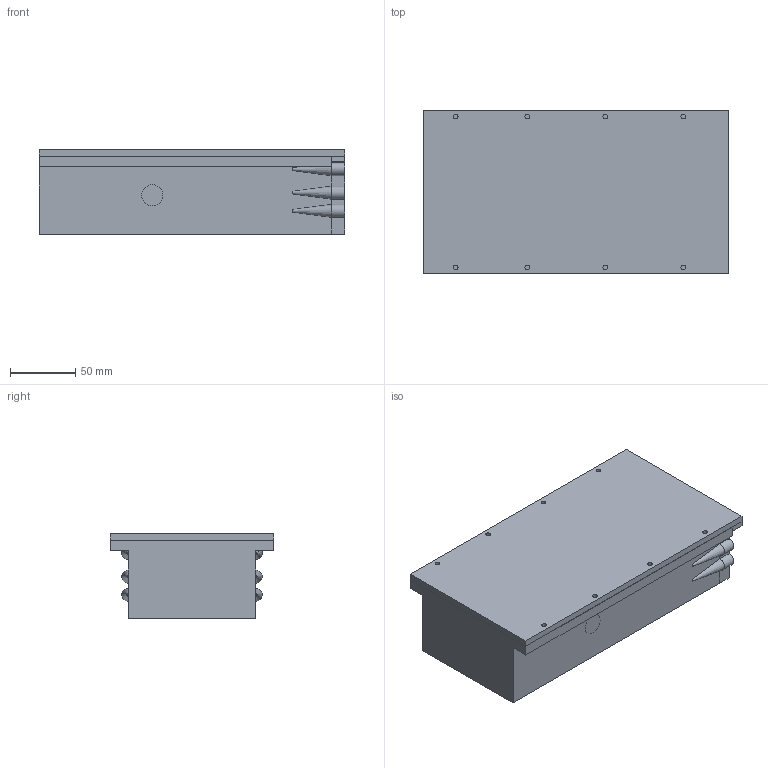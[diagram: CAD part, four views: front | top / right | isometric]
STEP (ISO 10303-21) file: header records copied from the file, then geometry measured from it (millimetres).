
FILE_DESCRIPTION(('FreeCAD Model'),'2;1');
FILE_NAME('Open CASCADE Shape Model','2026-09-11T13:41:38',( '' ),( '' ),'Open CASCADE STEP processor 7.8','FreeCAD','Unknown');
FILE_SCHEMA(('AUTOMOTIVE_DESIGN { 1 0 10303 214 1 1 1 1 }'));
Length unit declared in the file: millimetre
Products named in the file (1): Open CASCADE STEP translator 7.8 26
Bounding box: 235 x 126 x 65 mm (x, y, z)
Volume: 719159.1 mm3; surface area: 301332.1 mm2
Topology: 12 solids, 12 shells, 379 faces, 880 edges, 588 vertices
Faces by surface type: plane 233, cylinder 134, cone 12
Full cylindrical faces by diameter (mm): 1.4 x4, 1.7 x6, 2 x4, 2.5 x6, 2.7 x4, 3 x8, 3.6 x20, 4 x28, 4.4 x4, 5.2 x6, 7 x8, 12.2 x1, 16.2 x1
Entity records: 11040 total; most frequent: DIRECTION 1946, CARTESIAN_POINT 1848, ORIENTED_EDGE 1760, EDGE_CURVE 880, AXIS2_PLACEMENT_3D 686, VERTEX_POINT 588, LINE 574, VECTOR 574
